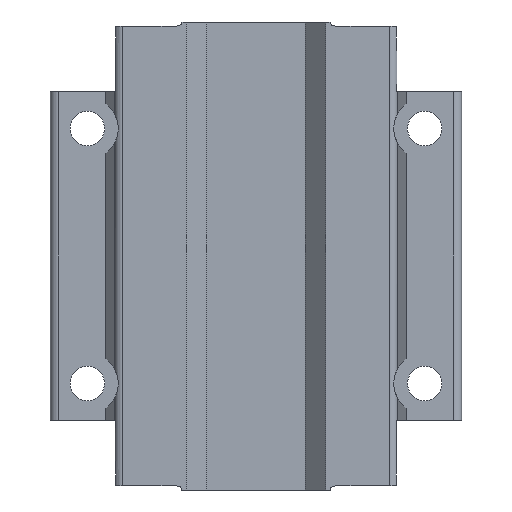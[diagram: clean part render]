
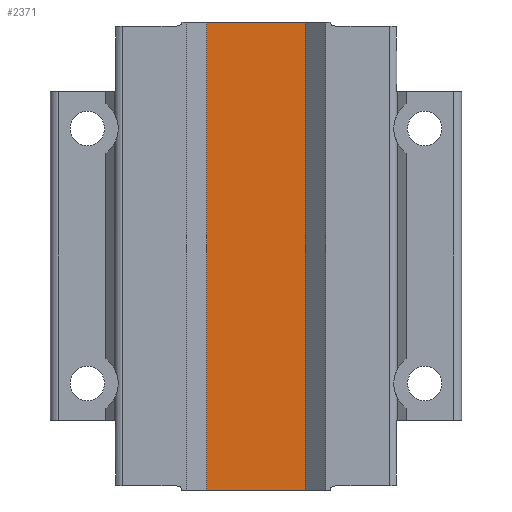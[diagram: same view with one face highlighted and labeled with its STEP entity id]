
A CAD part, front view. The second image highlights one B-rep face of the part: STEP entity #2371.
In plain terms, the highlighted planar face has unit normal (0, -1, 0).
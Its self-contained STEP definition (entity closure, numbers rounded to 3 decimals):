
#125=PLANE('',#2587);
#349=FACE_OUTER_BOUND('',#475,.T.);
#475=EDGE_LOOP('',(#2232,#2233,#2234,#2235));
#595=LINE('',#3533,#845);
#617=LINE('',#3609,#867);
#725=LINE('',#3985,#975);
#726=LINE('',#3987,#976);
#845=VECTOR('',#2843,10.);
#867=VECTOR('',#2921,10.);
#975=VECTOR('',#3221,10.);
#976=VECTOR('',#3224,10.);
#1140=VERTEX_POINT('',#3530);
#1141=VERTEX_POINT('',#3532);
#1166=VERTEX_POINT('',#3606);
#1167=VERTEX_POINT('',#3608);
#1395=EDGE_CURVE('',#1141,#1140,#595,.T.);
#1433=EDGE_CURVE('',#1166,#1167,#617,.T.);
#1579=EDGE_CURVE('',#1166,#1141,#725,.T.);
#1580=EDGE_CURVE('',#1167,#1140,#726,.T.);
#2232=ORIENTED_EDGE('',*,*,#1579,.T.);
#2233=ORIENTED_EDGE('',*,*,#1395,.T.);
#2234=ORIENTED_EDGE('',*,*,#1580,.F.);
#2235=ORIENTED_EDGE('',*,*,#1433,.F.);
#2371=ADVANCED_FACE('',(#349),#125,.T.);
#2587=AXIS2_PLACEMENT_3D('',#3986,#3222,#3223);
#2843=DIRECTION('',(-1.,0.,0.));
#2921=DIRECTION('',(-1.,0.,0.));
#3221=DIRECTION('',(0.,0.,1.));
#3222=DIRECTION('center_axis',(0.,-1.,0.));
#3223=DIRECTION('ref_axis',(1.,0.,0.));
#3224=DIRECTION('',(0.,0.,1.));
#3530=CARTESIAN_POINT('',(-13.6,29.,56.9));
#3532=CARTESIAN_POINT('',(13.6,29.,56.9));
#3533=CARTESIAN_POINT('',(13.6,29.,56.9));
#3606=CARTESIAN_POINT('',(13.6,29.,-56.9));
#3608=CARTESIAN_POINT('',(-13.6,29.,-56.9));
#3609=CARTESIAN_POINT('',(13.6,29.,-56.9));
#3985=CARTESIAN_POINT('',(13.6,29.,0.));
#3986=CARTESIAN_POINT('Origin',(-13.6,29.,0.));
#3987=CARTESIAN_POINT('',(-13.6,29.,0.));
